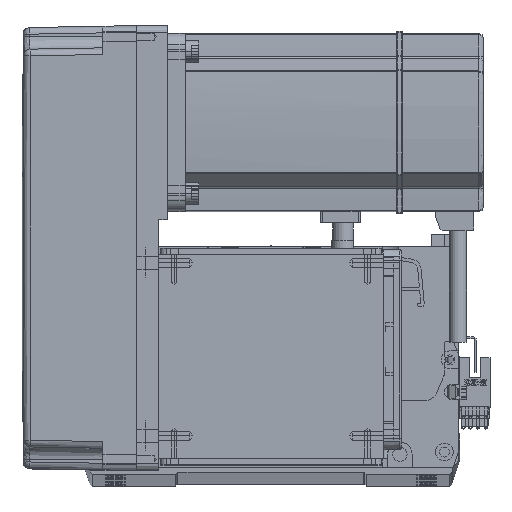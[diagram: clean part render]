
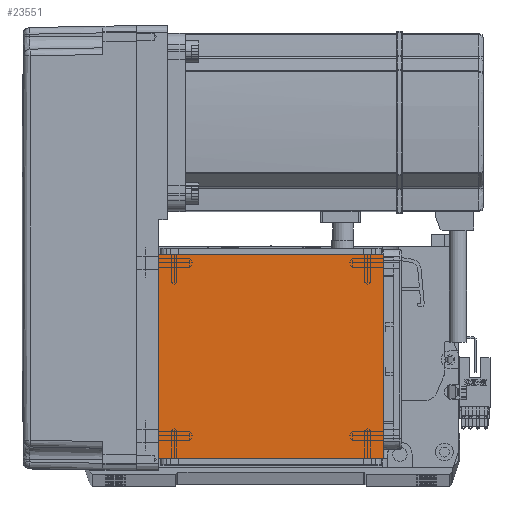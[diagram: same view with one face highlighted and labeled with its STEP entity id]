
A CAD part, top view. The second image highlights one B-rep face of the part: STEP entity #23551.
In plain terms, the highlighted planar face has unit normal (0, 0, 1).
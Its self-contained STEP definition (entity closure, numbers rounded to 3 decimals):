
#1314 = CARTESIAN_POINT ( 'NONE',  ( 0., 0., 115. ) ) ;
#3866 = VERTEX_POINT ( 'NONE', #15219 ) ;
#5427 = AXIS2_PLACEMENT_3D ( 'NONE', #1314, #47594, #58140 ) ;
#5855 = VERTEX_POINT ( 'NONE', #21612 ) ;
#9162 = CARTESIAN_POINT ( 'NONE',  ( -50.5, 122., 115. ) ) ;
#10910 = CARTESIAN_POINT ( 'NONE',  ( 50.5, 20., 115. ) ) ;
#12796 = CARTESIAN_POINT ( 'NONE',  ( 50.5, 122., 115. ) ) ;
#13632 = DIRECTION ( 'NONE',  ( 0., -1., 0. ) ) ;
#15219 = CARTESIAN_POINT ( 'NONE',  ( -50.5, 20., 115. ) ) ;
#18628 = ORIENTED_EDGE ( 'NONE', *, *, #24942, .F. ) ;
#19058 = CARTESIAN_POINT ( 'NONE',  ( 50.5, 111.5, 115. ) ) ;
#21204 = LINE ( 'NONE', #31957, #22042 ) ;
#21612 = CARTESIAN_POINT ( 'NONE',  ( -50.5, 111.5, 115. ) ) ;
#22042 = VECTOR ( 'NONE', #52155, 1000. ) ;
#22235 = PLANE ( 'NONE',  #5427 ) ;
#23551 = ADVANCED_FACE ( 'NONE', ( #59944 ), #22235, .T. ) ;
#24133 = LINE ( 'NONE', #58456, #40160 ) ;
#24942 = EDGE_CURVE ( 'NONE', #5855, #45399, #21204, .T. ) ;
#26104 = ORIENTED_EDGE ( 'NONE', *, *, #52499, .F. ) ;
#26736 = VECTOR ( 'NONE', #35057, 1000. ) ;
#27104 = ORIENTED_EDGE ( 'NONE', *, *, #49103, .T. ) ;
#31957 = CARTESIAN_POINT ( 'NONE',  ( -70.004, 111.5, 115. ) ) ;
#32387 = LINE ( 'NONE', #12796, #26736 ) ;
#34289 = VECTOR ( 'NONE', #13632, 1000. ) ;
#35057 = DIRECTION ( 'NONE',  ( 0., 1., 0. ) ) ;
#40160 = VECTOR ( 'NONE', #47668, 1000. ) ;
#45399 = VERTEX_POINT ( 'NONE', #19058 ) ;
#46960 = EDGE_CURVE ( 'NONE', #5855, #3866, #58358, .T. ) ;
#47594 = DIRECTION ( 'NONE',  ( 0., 0., 1. ) ) ;
#47668 = DIRECTION ( 'NONE',  ( -1., 0., 0. ) ) ;
#49103 = EDGE_CURVE ( 'NONE', #60534, #45399, #32387, .T. ) ;
#52155 = DIRECTION ( 'NONE',  ( 1., 0., 0. ) ) ;
#52499 = EDGE_CURVE ( 'NONE', #60534, #3866, #24133, .T. ) ;
#54743 = ORIENTED_EDGE ( 'NONE', *, *, #46960, .T. ) ;
#58140 = DIRECTION ( 'NONE',  ( 1., 0., 0. ) ) ;
#58358 = LINE ( 'NONE', #9162, #34289 ) ;
#58456 = CARTESIAN_POINT ( 'NONE',  ( -70.004, 20., 115. ) ) ;
#59944 = FACE_OUTER_BOUND ( 'NONE', #62492, .T. ) ;
#60534 = VERTEX_POINT ( 'NONE', #10910 ) ;
#62492 = EDGE_LOOP ( 'NONE', ( #18628, #54743, #26104, #27104 ) ) ;
